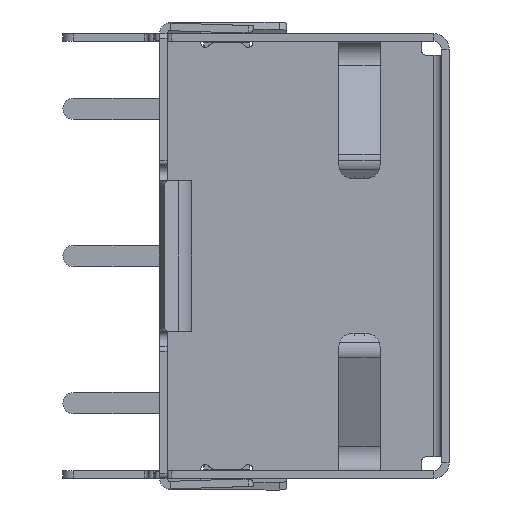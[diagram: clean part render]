
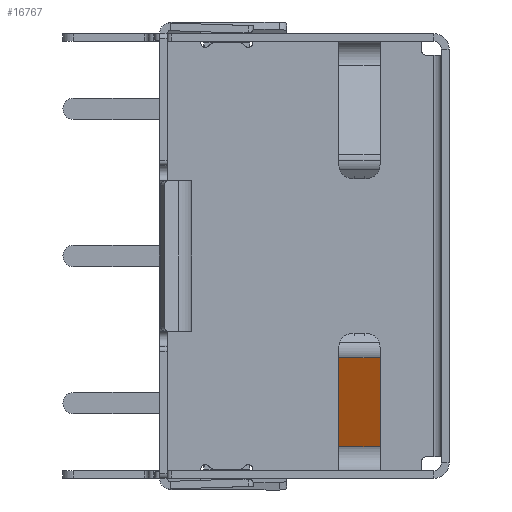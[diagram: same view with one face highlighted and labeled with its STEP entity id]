
A CAD part, left-side view. The second image highlights one B-rep face of the part: STEP entity #16767.
In plain terms, the highlighted planar face has unit normal (-0.906, 0, -0.423).
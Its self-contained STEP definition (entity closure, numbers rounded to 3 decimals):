
#1878 = CARTESIAN_POINT ( 'NONE',  ( 48.699, 2., -7.354 ) ) ;
#1915 = DIRECTION ( 'NONE',  ( 0.423, 0., -0.906 ) ) ;
#1961 = DIRECTION ( 'NONE',  ( -0.423, 0., 0.906 ) ) ;
#1964 = DIRECTION ( 'NONE',  ( 0., 1., 0. ) ) ;
#1969 = DIRECTION ( 'NONE',  ( 0., -1., 0. ) ) ;
#2013 = CARTESIAN_POINT ( 'NONE',  ( 48.168, -22.821, -6.218 ) ) ;
#2031 = CARTESIAN_POINT ( 'NONE',  ( 48.699, 3.35, -7.354 ) ) ;
#2033 = CARTESIAN_POINT ( 'NONE',  ( 46.816, -22.821, -3.317 ) ) ;
#3832 = VECTOR ( 'NONE', #1969, 1000. ) ;
#3873 = LINE ( 'NONE', #2031, #3893 ) ;
#3875 = LINE ( 'NONE', #2013, #3832 ) ;
#3877 = VECTOR ( 'NONE', #1915, 1000. ) ;
#3893 = VECTOR ( 'NONE', #1961, 1000. ) ;
#3937 = LINE ( 'NONE', #1878, #3877 ) ;
#3980 = VECTOR ( 'NONE', #1964, 1000. ) ;
#4000 = LINE ( 'NONE', #2033, #3980 ) ;
#7311 = FACE_OUTER_BOUND ( 'NONE', #9831, .T. ) ;
#8652 = VERTEX_POINT ( 'NONE', #19701 ) ;
#8704 = VERTEX_POINT ( 'NONE', #19746 ) ;
#8734 = VERTEX_POINT ( 'NONE', #19783 ) ;
#8746 = VERTEX_POINT ( 'NONE', #19794 ) ;
#9831 = EDGE_LOOP ( 'NONE', ( #20204, #20143, #20203, #20150 ) ) ;
#14448 = DIRECTION ( 'NONE',  ( 0., 1., 0. ) ) ;
#14464 = DIRECTION ( 'NONE',  ( 0.906, 0., 0.423 ) ) ;
#14470 = CARTESIAN_POINT ( 'NONE',  ( 68.781, -22.821, -50.422 ) ) ;
#14472 = PLANE ( 'NONE',  #21069 ) ;
#16767 = ADVANCED_FACE ( 'NONE', ( #7311 ), #14472, .F. ) ;
#19701 = CARTESIAN_POINT ( 'NONE',  ( 46.816, 2., -3.317 ) ) ;
#19746 = CARTESIAN_POINT ( 'NONE',  ( 48.168, 2., -6.218 ) ) ;
#19783 = CARTESIAN_POINT ( 'NONE',  ( 48.168, 3.35, -6.218 ) ) ;
#19794 = CARTESIAN_POINT ( 'NONE',  ( 46.816, 3.35, -3.317 ) ) ;
#20143 = ORIENTED_EDGE ( 'NONE', *, *, #23363, .T. ) ;
#20150 = ORIENTED_EDGE ( 'NONE', *, *, #23353, .T. ) ;
#20203 = ORIENTED_EDGE ( 'NONE', *, *, #23352, .F. ) ;
#20204 = ORIENTED_EDGE ( 'NONE', *, *, #23335, .F. ) ;
#21069 = AXIS2_PLACEMENT_3D ( 'NONE', #14470, #14464, #14448 ) ;
#23335 = EDGE_CURVE ( 'NONE', #8652, #8704, #3937, .T. ) ;
#23352 = EDGE_CURVE ( 'NONE', #8734, #8746, #3873, .T. ) ;
#23353 = EDGE_CURVE ( 'NONE', #8734, #8704, #3875, .T. ) ;
#23363 = EDGE_CURVE ( 'NONE', #8652, #8746, #4000, .T. ) ;
